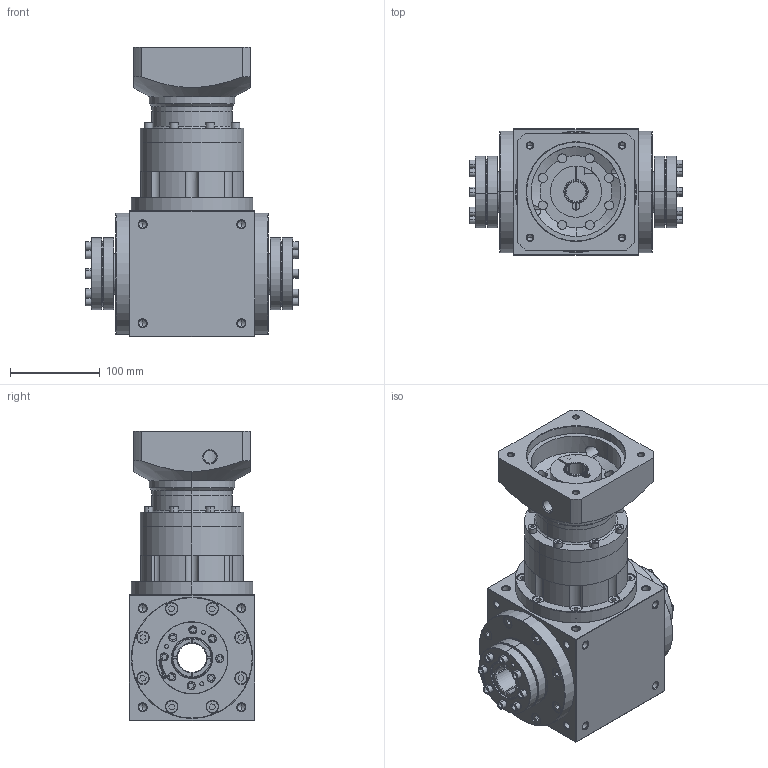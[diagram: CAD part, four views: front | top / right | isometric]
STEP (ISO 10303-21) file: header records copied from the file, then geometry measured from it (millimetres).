
FILE_DESCRIPTION (( 'STEP AP203' ), '1' );
FILE_NAME ('AT140-FC-L3-22-110-145M8.STEP', '2026-01-08T02:57:38', ( 'Windows User' ), ( 'P R C' ), 'SwSTEP 2.0', 'SolidWorks 2016', '' );
FILE_SCHEMA (( 'CONFIG_CONTROL_DESIGN' ));
Length unit declared in the file: millimetre
Products named in the file (9): AT140-输入法兰-F-110-M8-145; AT140-83_44x80-攫宒坶踡杶; AT140-FC-L3-22-110-145M8; AT140-转角箱体-盘式-孔输出; AT140-蛌倰怀堤楊擘; AT140-单级齿圈; AT140-双级齿圈; 输入胀套-27; 输入轴套-24-22
Assembly tree (9 placements, depth 2):
  AT140-FC-L3-22-110-145M8
    AT140-转角箱体-盘式-孔输出
    AT140-蛌倰怀堤楊擘
    AT140-单级齿圈
    AT140-双级齿圈
    输入胀套-27
    输入轴套-24-22
    AT140-输入法兰-F-110-M8-145
    AT140-83_44x80-攫宒坶踡杶  x2
Bounding box: 237.2 x 140 x 322 mm (x, y, z)
Volume: 3856338.2 mm3; surface area: 569871.3 mm2
Topology: 31 solids, 43 shells, 2667 faces, 6558 edges, 4104 vertices
Faces by surface type: plane 1177, cylinder 794, cone 426, bspline 270
Entity records: 74532 total; most frequent: CARTESIAN_POINT 23123, ORIENTED_EDGE 10736, DIRECTION 9891, EDGE_CURVE 5368, VERTEX_POINT 3434, LINE 3357, VECTOR 3357, AXIS2_PLACEMENT_3D 3267
